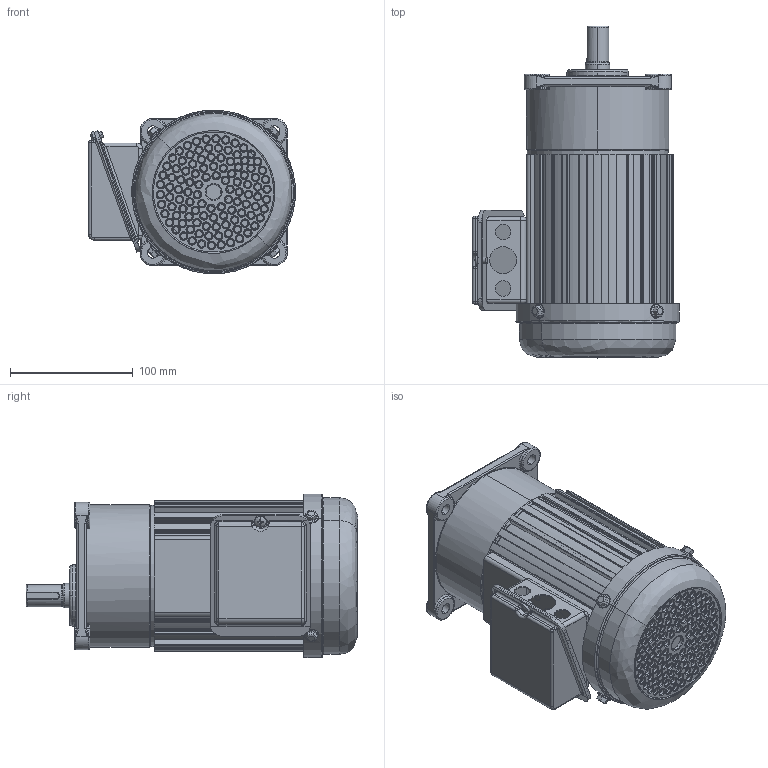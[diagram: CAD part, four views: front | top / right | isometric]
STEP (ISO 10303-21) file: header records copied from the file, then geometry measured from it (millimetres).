
FILE_DESCRIPTION (( 'STEP AP203' ), '1' );
FILE_NAME ('单相200W1#立式.STEP', '2015-10-23T01:37:23', ( '微软中国' ), ( '微软用户' ), 'SwSTEP 2.0', 'SolidWorks 2009', '' );
FILE_SCHEMA (( 'CONFIG_CONTROL_DESIGN' ));
Products named in the file (12): Hex Flange Bolts-Heavy Grade B GB_GB_FASTENER_BOLT_HFBB M5X10-N; 1#蕾宒熬厒ん; 200W儂褲; 等眈200W1#蕾宒; 錨璃8^蚾饜极1; 100W綴裔; 瑞欶盓殤; 100W瑞欶; 蚾饜极3; 等眈100W諉盄碟釱; 等眈100W諉盄碟裔; Cross recessed pan head screws GB_GB_CROSS_SCREWS_TYPE1 M5X6-6  H type-N
Assembly tree (16 placements, depth 3):
  等眈200W1#蕾宒
    Hex Flange Bolts-Heavy Grade B GB_GB_FASTENER_BOLT_HFBB M5X10-N  x4
    100W瑞欶
    200W儂褲
    瑞欶盓殤  x4
    1#蕾宒熬厒ん
    100W綴裔
    蚾饜极3
      Cross recessed pan head screws GB_GB_CROSS_SCREWS_TYPE1 M5X6-6  H type-N
      等眈100W諉盄碟裔
      等眈100W諉盄碟釱
  錨璃8^蚾饜极1
Bounding box: 168.52 x 270.5 x 133.25 mm (x, y, z)
Volume: 1201123.5 mm3; surface area: 333562.1 mm2
Topology: 15 solids, 15 shells, 1526 faces, 3957 edges, 2454 vertices
Faces by surface type: bspline 690, cylinder 489, plane 287, torus 30, cone 24, sphere 6
Entity records: 58533 total; most frequent: CARTESIAN_POINT 23913, ORIENTED_EDGE 7344, DIRECTION 6789, EDGE_CURVE 3672, AXIS2_PLACEMENT_3D 2815, VERTEX_POINT 2292, CIRCLE 2058, EDGE_LOOP 1698
